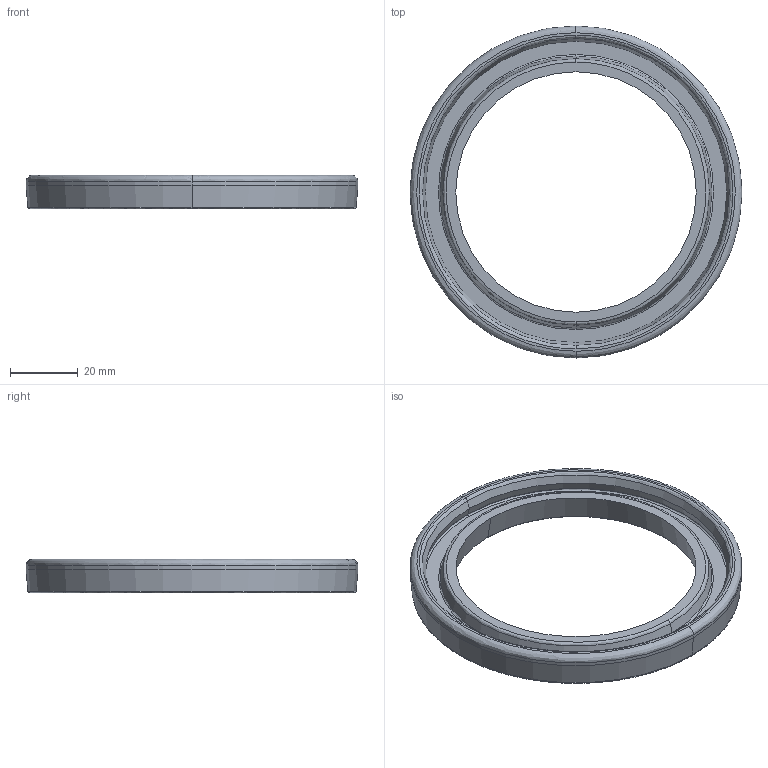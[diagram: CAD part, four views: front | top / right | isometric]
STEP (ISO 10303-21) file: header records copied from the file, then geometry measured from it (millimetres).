
FILE_DESCRIPTION (( 'STEP AP203' ), '1' );
FILE_NAME ('501019_Dämpfungsring Ø90.step', '2018-12-17T06:07:18', ( '' ), ( '' ), 'SwSTEP 2.0', 'SolidWorks 2017', '' );
FILE_SCHEMA (( 'CONFIG_CONTROL_DESIGN' ));
Length unit declared in the file: millimetre
Products named in the file (1): 501019_Dämpfungsring Ø90
Bounding box: 98 x 98 x 10 mm (x, y, z)
Volume: 23163.3 mm3; surface area: 13444.2 mm2
Topology: 1 solids, 1 shells, 32 faces, 78 edges, 50 vertices
Faces by surface type: bspline 16, cone 10, plane 4, cylinder 2
Entity records: 2381 total; most frequent: CARTESIAN_POINT 1637, ORIENTED_EDGE 156, DIRECTION 122, EDGE_CURVE 78, AXIS2_PLACEMENT_3D 55, VERTEX_POINT 50, CIRCLE 38, EDGE_LOOP 36
